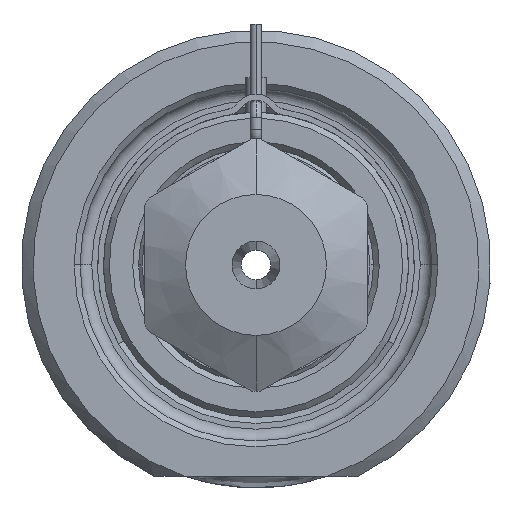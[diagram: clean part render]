
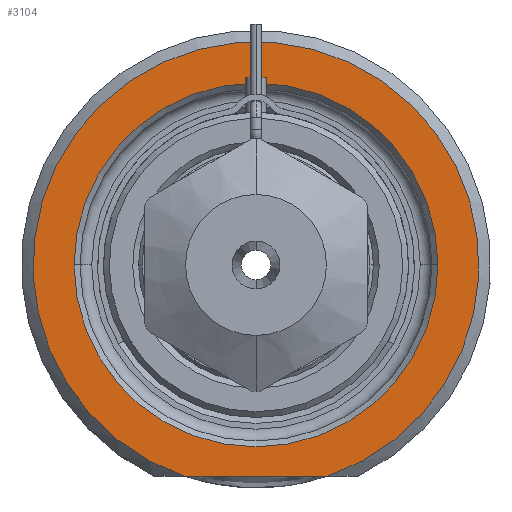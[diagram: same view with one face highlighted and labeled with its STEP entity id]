
A CAD part, front view. The second image highlights one B-rep face of the part: STEP entity #3104.
In plain terms, the highlighted planar face has unit normal (0, -1, 0).
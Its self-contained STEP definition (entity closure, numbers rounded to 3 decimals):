
#1=DIRECTION('',(1.,0.,0.));
#2=VECTOR('',#1,12.166);
#3=CARTESIAN_POINT('',(-6.083,0.,-18.));
#4=LINE('',#3,#2);
#5=CARTESIAN_POINT('',(0.,0.,0.));
#6=DIRECTION('',(0.,1.,0.));
#7=DIRECTION('',(-1.,0.,0.));
#8=AXIS2_PLACEMENT_3D('',#5,#6,#7);
#10=CARTESIAN_POINT('',(0.,0.,0.));
#11=DIRECTION('',(0.,1.,0.));
#12=DIRECTION('',(1.,0.,0.));
#13=AXIS2_PLACEMENT_3D('',#10,#11,#12);
#264=CARTESIAN_POINT('',(0.,0.,0.));
#265=DIRECTION('',(0.,-1.,0.));
#266=DIRECTION('',(0.32,0.,-0.947));
#267=AXIS2_PLACEMENT_3D('',#264,#265,#266);
#2607=CARTESIAN_POINT('',(-15.5,0.,0.));
#2608=CARTESIAN_POINT('',(15.5,0.,0.));
#2609=VERTEX_POINT('',#2607);
#2610=VERTEX_POINT('',#2608);
#2665=CARTESIAN_POINT('',(-6.083,0.,-18.));
#2666=CARTESIAN_POINT('',(6.083,0.,-18.));
#2667=VERTEX_POINT('',#2665);
#2668=VERTEX_POINT('',#2666);
#3087=CARTESIAN_POINT('',(0.,0.,0.));
#3088=DIRECTION('',(0.,-1.,0.));
#3089=DIRECTION('',(1.,0.,0.));
#3090=AXIS2_PLACEMENT_3D('',#3087,#3088,#3089);
#3091=PLANE('',#3090);
#3093=ORIENTED_EDGE('',*,*,#3092,.F.);
#3095=ORIENTED_EDGE('',*,*,#3094,.F.);
#3096=EDGE_LOOP('',(#3093,#3095));
#3097=FACE_OUTER_BOUND('',#3096,.F.);
#3099=ORIENTED_EDGE('',*,*,#3098,.F.);
#3101=ORIENTED_EDGE('',*,*,#3100,.F.);
#3102=EDGE_LOOP('',(#3099,#3101));
#3103=FACE_BOUND('',#3102,.F.);
#3104=ADVANCED_FACE('',(#3097,#3103),#3091,.T.);
#9=CIRCLE('',#8,15.5);
#14=CIRCLE('',#13,15.5);
#268=CIRCLE('',#267,19.);
#3092=EDGE_CURVE('',#2667,#2668,#4,.T.);
#3094=EDGE_CURVE('',#2668,#2667,#268,.T.);
#3098=EDGE_CURVE('',#2609,#2610,#9,.T.);
#3100=EDGE_CURVE('',#2610,#2609,#14,.T.);
